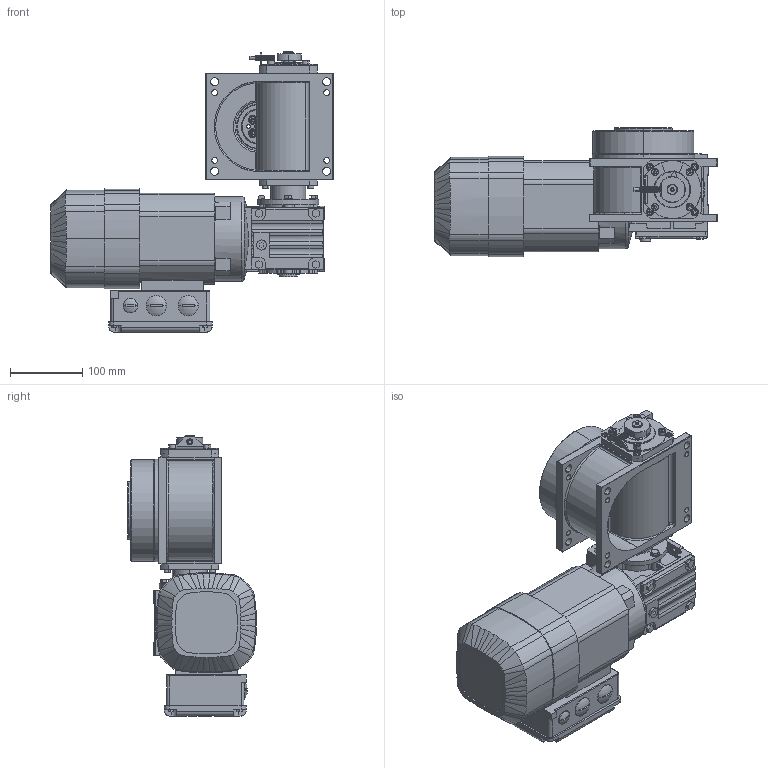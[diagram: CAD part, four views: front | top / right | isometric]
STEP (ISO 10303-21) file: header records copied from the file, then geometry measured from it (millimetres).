
FILE_DESCRIPTION (( 'STEP AP214' ), '1' );
FILE_NAME ('M140_SEW_WA20DRS71S4BE05_D1.STEP', '2021-01-22T15:22:58', ( '' ), ( '' ), 'SwSTEP 2.0', 'SolidWorks 2020', '' );
FILE_SCHEMA (( 'AUTOMOTIVE_DESIGN' ));
Length unit declared in the file: millimetre
Products named in the file (1): M140_SEW_WA20DRS71S4BE05_D1
Bounding box: 390.5 x 178.7 x 387.75 mm (x, y, z)
Surface area: 462626.5 mm2 (no closed solid volume)
Topology: 0 solids, 47 shells, 1279 faces, 3951 edges, 2643 vertices
Faces by surface type: plane 529, cylinder 510, bspline 100, cone 85, torus 49, sphere 6
Entity records: 68509 total; most frequent: CARTESIAN_POINT 19808, DIRECTION 7211, ORIENTED_EDGE 6947, EDGE_CURVE 3929, VERTEX_POINT 2643, AXIS2_PLACEMENT_3D 2585, LINE 2041, VECTOR 2041
